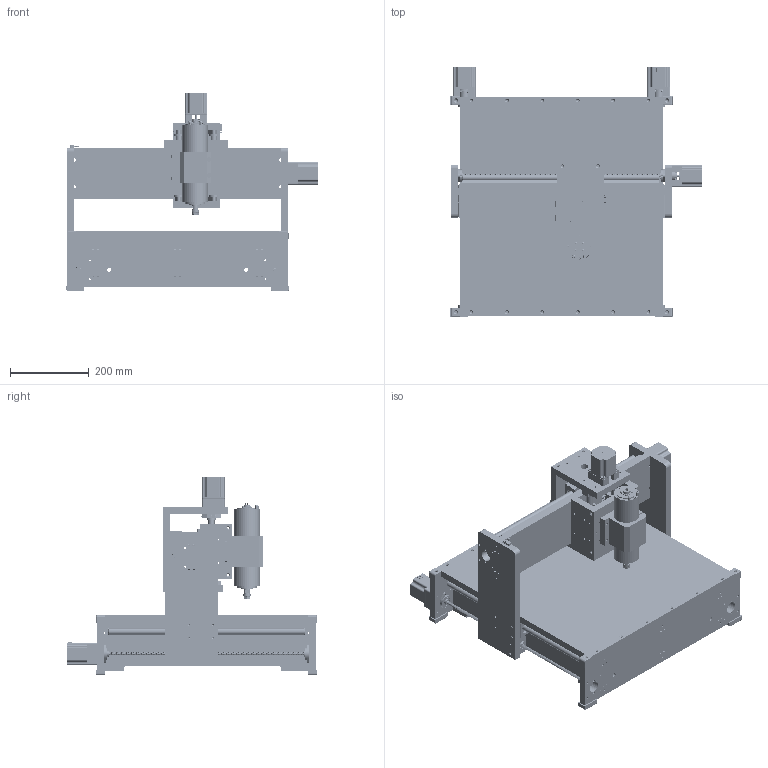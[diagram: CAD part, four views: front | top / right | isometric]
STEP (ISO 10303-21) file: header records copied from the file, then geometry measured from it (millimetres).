
FILE_DESCRIPTION(/* description */ (''),/* implementation_level */ '2;1');
FILE_NAME(/* name */ 'czarna_main v23.step',/* time_stamp */ '2022-12-23T13:35:23+01:00',/* author */ (''),/* organization */ (''),/* preprocessor_version */ 'ST-DEVELOPER v19.2',/* originating_system */ 'Autodesk Translation Framework v11.17.0.187',/* authorisation */ '');
FILE_SCHEMA (('AUTOMOTIVE_DESIGN { 1 0 10303 214 3 1 1 }'));
Products named in the file (64): czarna_main; Blat_glowny; baza_bok; baza_tyl_front; KFL_08; sprzeglo_6,35x8mm; KFL_08_1; SME-L16OP; SA16_500mm; KFL_08_2; karetka_plecy; SME-L16OP_1; SME-L16OP_2; SA16_500mm_1; SA16_500mm_2; nowe_plecy_X; sprzeglo_6,35x8mm_1; Nakretka_TR8x8; Nakretka_TR8x8_1; bok_x; KFL_08_3; nasadki_boczne; stopka; KFL_08_4; KFL_08_5; sprzeglo_6,35x8mm_2; sruba_TR8x8; SME-L16OP_3; smel16; SA16_500mm_3; sa16-500; uchwyt_nakretki; Nakretka_TR8x8_2; Komponent4; p_1; p_2; gora_karetki; karetka_dol; SHF_16; front_zetki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
Assembly tree (127 placements, depth 4):
  czarna_main
    Blat_glowny
    baza_tyl_front  x2
    baza_bok  x3
    mocowanie_silnika  x8
    KFL_08
      62660800_2
      62660800_1
    sprzeglo_6,35x8mm
      MCV2506A08_2
      MCV2506A08_3
      MCV2506A08_1
    Silnik_krokowy_NEMA23  x4
    sruba_TR8x8  x3
    KFL_08_1
      62660800_2
      62660800_1
    nasadki_boczne  x4
    stopka  x4
    bok_x  x2
    SME-L16OP
      smel16
    SA16_500mm
      sa16-500
    uchwyt_nakretki  x3
    KFL_08_2
      62660800_2
      62660800_1
    karetka_plecy
    SME-L16OP_1
      smel16
    SME-L16OP_2
      smel16
    SA16_500mm_1
      sa16-500
    SA16_500mm_2
      sa16-500
    nowe_plecy_X
    sprzeglo_6,35x8mm_1
      MCV2506A08_2
      MCV2506A08_3
      MCV2506A08_1
    Nakretka_TR8x8
      Komponent4
      p_1
      p_2
    Nakretka_TR8x8_1
      Komponent4
      p_1
      p_2
    KFL_08_3
      62660800_2
      62660800_1
    KFL_08_4
      62660800_2
      62660800_1
    KFL_08_5
      62660800_2
      62660800_1
    sprzeglo_6,35x8mm_2
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Bounding box: 639.39 x 635.39 x 505.39 mm (x, y, z)
Volume: 19324797.1 mm3; surface area: 3047651 mm2
Topology: 135 solids, 136 shells, 7339 faces, 19492 edges, 12892 vertices
Faces by surface type: cylinder 3537, plane 2839, bspline 366, cone 330, torus 187, sphere 80
Full cylindrical faces by diameter (mm): 1.27 x16, 1.4 x8, 1.6 x6, 1.8 x4, 2.5 x44, 2.58 x2, 2.729 x4, 3 x56, 3.426 x2, 3.456 x4, 3.5 x12, 3.6 x2, 3.75 x2, 4 x4, 4.134 x72, 4.197 x8, 4.3 x8, 4.326 x2, 4.5 x16, 4.6 x2, 4.77 x2, 4.8 x20, 5 x119, 5.08 x60, 5.5 x56, 5.526 x2, 5.6 x4, 5.799 x686, 5.88 x7, 6 x14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
Entity records: 197060 total; most frequent: CARTESIAN_POINT 109914, ORIENTED_EDGE 18812, DIRECTION 14982, EDGE_CURVE 9406, VERTEX_POINT 6262, AXIS2_PLACEMENT_3D 5110, LINE 4762, VECTOR 4762
